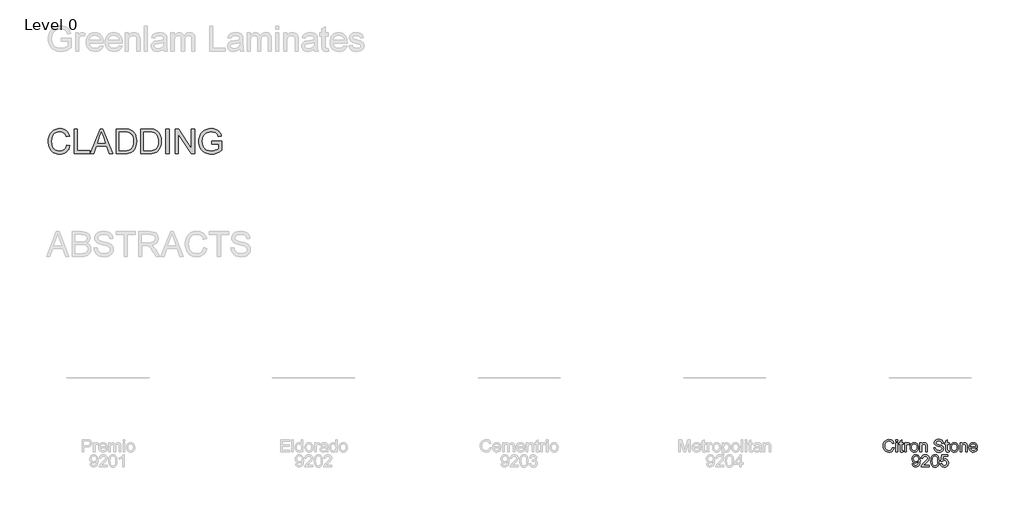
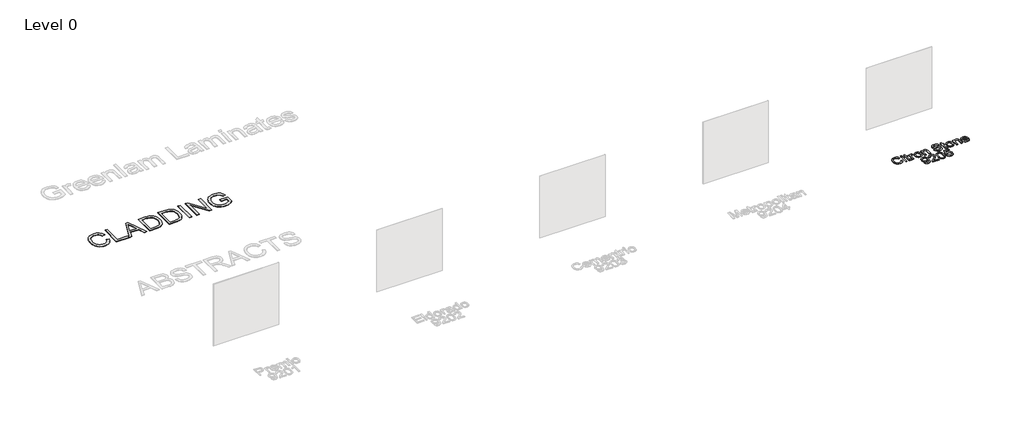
# One storey, part 7 of 8: 2 proxies.
"""IFC4 building model written with IfcOpenShell, lengths in millimetres."""

from ifc_helpers import new_model, si_unit, origin, origin_with_axes, place, context, project, spatial, polyline, outline, extrude, element, save

model = new_model("IFC4")

# Units and contexts
model_context = context("Model", 3, world=origin())
ifc_project = project(units=[si_unit("LENGTHUNIT", "METRE", prefix="MILLI")], contexts=[model_context])

# Site, building, storey
site = spatial("IfcSite", under=ifc_project)
building = spatial("IfcBuilding", under=site)
storey = spatial("IfcBuildingStorey", under=building, Name="Level 0", Elevation=0.0)

# Proxies
placement = place(None, origin())
element("IfcBuildingElementProxy", 1, Name="300mm Arial", ObjectType="300mm Arial", at=placement, inside=storey, context=model_context, shape_type="SweptSolid", body=[
    extrude(outline(polyline([(9633.4629285, -6895.733257), (9671.1340448, -6905.4453417), (9663.6798359, -6928.872527), (9653.7516205, -6949.3428607), (9641.3493988, -6966.856343), (9626.4731706, -6981.4129737), (9609.4586283, -6992.856403), (9590.6414643, -7001.0302811), (9570.0216784, -7005.9346079), (9547.5992708, -7007.5693835), (9503.9040868, -7002.6213707), (9469.2036177, -6987.7773322), (9442.6057494, -6963.5523028), (9423.2183683, -6930.4613173), (9411.3817651, -6891.5577963), (9407.4362307, -6849.8951604), (9411.8967999, -6805.9516561), (9425.2785074, -6768.0046283), (9446.8823776, -6737.2588905), (9476.0094346, -6714.9192564), (9510.5535539, -6701.3168196), (9548.4086112, -6696.782674), (9589.7125622, -6702.6503918), (9607.6812984, -6709.9850391), (9623.8612084, -6720.2535453), (9637.9855778, -6733.1845974), (9649.787692, -6748.5068825), (9666.4251553, -6786.3251516), (9628.754039, -6795.3014723), (9615.6942281, -6767.8298843), (9597.8519514, -6748.9851291), (9575.0064795, -6738.086625), (9546.9370832, -6734.4537903), (9514.5818618, -6738.4820981), (9488.0023876, -6750.5670217), (9467.8332572, -6769.439368), (9454.709067, -6793.8299443), (9447.507777, -6821.4026999), (9445.107347, -6849.821584), (9447.9492354, -6884.6232207), (9456.4749006, -6914.7159679), (9471.0062394, -6938.9501944), (9491.8651486, -6956.1762688), (9516.8719272, -6966.4677676), (9543.8468745, -6969.8982672), (9575.291588, -6965.2261659), (9601.4939831, -6951.2098619), (9621.2768374, -6927.996508), (9633.4629285, -6895.733257)])), origin_with_axes(), (0.0, 0.0, 1.0), 10.0),
    extrude(outline(polyline([(9718.2229402, -6739.1626798), (9718.2229402, -6701.4915635), (9755.8940565, -6701.4915635), (9755.8940565, -6739.1626798), (9718.2229402, -6739.1626798)])), origin_with_axes(), (0.0, 0.0, 1.0), 10.0),
    extrude(outline(polyline([(9718.2229402, -7002.860494), (9718.2229402, -6781.5426857), (9755.8940565, -6781.5426857), (9755.8940565, -7002.860494), (9718.2229402, -7002.860494)])), origin_with_axes(), (0.0, 0.0, 1.0), 10.0),
    extrude(outline(polyline([(9892.4518531, -6971.4433716), (9897.1607426, -7003.96414), (9868.9809818, -7007.5693835), (9850.8995817, -7006.005885), (9837.4167066, -7001.3153896), (9827.888563, -6994.0865084), (9821.6713572, -6984.9078526), (9818.2500547, -6969.1441091), (9817.1096205, -6942.1599648), (9817.1096205, -6819.213802), (9788.8562833, -6819.213802), (9788.8562833, -6781.5426857), (9817.1096205, -6781.5426857), (9817.1096205, -6727.758338), (9854.7807368, -6705.6118419), (9854.7807368, -6781.5426857), (9892.4518531, -6781.5426857), (9892.4518531, -6819.213802), (9854.7807368, -6819.213802), (9854.7807368, -6941.0563188), (9856.7672996, -6960.4804881), (9863.2052345, -6967.3598814), (9876.0443161, -6969.8982672), (9892.4518531, -6971.4433716)])), origin_with_axes(), (0.0, 0.0, 1.0), 10.0),
    extrude(outline(polyline([(9930.1229694, -7002.860494), (9930.1229694, -6781.5426857), (9963.0851962, -6781.5426857), (9963.0851962, -6814.2841833), (9975.2620902, -6795.3014723), (9986.4824911, -6784.1178596), (9997.7396801, -6778.654812), (10010.0269388, -6776.8337961), (10028.7889205, -6779.7400639), (10047.8452079, -6788.4588672), (10035.2636436, -6822.2304343), (10022.0198918, -6816.4362929), (10008.77614, -6814.5049125), (9997.528148, -6816.3627165), (9987.4757725, -6821.9361288), (9979.3547774, -6830.8020848), (9973.9009268, -6842.5375205), (9969.320796, -6863.5803706), (9967.7940857, -6886.5362071), (9967.7940857, -7002.860494), (9930.1229694, -7002.860494)])), origin_with_axes(), (0.0, 0.0, 1.0), 10.0),
    extrude(outline(polyline([(10061.9718765, -6892.2015898), (10064.009023, -6863.5389839), (10070.1204627, -6838.8403064), (10080.3061954, -6818.1055575), (10094.5662213, -6801.334737), (10108.9228161, -6790.6155754), (10124.7693331, -6782.9590314), (10142.1057721, -6778.3651049), (10160.9321332, -6776.8337961), (10181.7151667, -6778.698498), (10200.5070388, -6784.2926036), (10217.3077497, -6793.6161129), (10232.1172993, -6806.669026), (10244.2045221, -6823.0098843), (10252.8382526, -6842.1972296), (10258.018491, -6864.2310619), (10259.7452371, -6889.1113811), (10256.6918165, -6927.1687735), (10247.5315548, -6956.1394806), (10232.5311665, -6977.8353213), (10211.9573659, -6994.0681143), (10187.5208044, -7004.1940662), (10160.9321332, -7007.5693835), (10139.8455971, -7005.7115794), (10120.878981, -7000.1381672), (10104.0322848, -6990.8491468), (10089.3055087, -6977.8445183), (10077.3470446, -6961.3450108), (10068.8052845, -6941.5713536), (10063.6802285, -6918.5235466), (10061.9718765, -6892.2015898)]), holes=[polyline([(10099.6429928, -6892.1280134), (10104.0023944, -6926.2214773), (10117.0805994, -6950.5108861), (10136.7622861, -6965.0514219), (10160.9321332, -6969.8982672), (10184.9916157, -6965.0238308), (10204.6365142, -6950.4005215), (10217.7147191, -6925.789216), (10222.0741208, -6890.950791), (10217.687128, -6857.8506085), (10204.5261496, -6833.8922936), (10184.8536599, -6819.3517577), (10160.9321332, -6814.5049125), (10136.7622861, -6819.3333636), (10117.0805994, -6833.8187172), (10104.0023944, -6858.0529436), (10099.6429928, -6892.1280134)])]), origin_with_axes(), (0.0, 0.0, 1.0), 10.0),
    extrude(outline(polyline([(10302.1252429, -7002.860494), (10302.1252429, -6781.5426857), (10339.7963592, -6781.5426857), (10339.7963592, -6812.4447733), (10352.8837612, -6796.8649708), (10368.6015195, -6785.7365404), (10386.949634, -6779.0594822), (10407.9281047, -6776.8337961), (10426.4969485, -6778.6272209), (10443.5022937, -6784.0074951), (10457.6841446, -6792.303234), (10467.7825054, -6802.8430532), (10479.0764826, -6830.5445674), (10481.0630454, -6866.964885), (10481.0630454, -7002.860494), (10443.3919291, -7002.860494), (10443.3919291, -6872.0416565), (10439.0509215, -6838.7115477), (10433.045248, -6828.7879309), (10423.7102423, -6821.0900002), (10411.7448804, -6816.1511844), (10397.8481381, -6814.5049125), (10375.7844154, -6818.2021265), (10356.9764484, -6829.2937687), (10349.4601594, -6838.3482643), (10344.0913815, -6850.7228949), (10339.7963592, -6885.4325611), (10339.7963592, -7002.860494), (10302.1252429, -7002.860494)])), origin_with_axes(), (0.0, 0.0, 1.0), 10.0),
    extrude(outline(polyline([(10641.1652897, -6899.2649241), (10678.836406, -6899.2649241), (10683.1590194, -6920.1698185), (10690.9765118, -6936.9728286), (10703.1718, -6950.308551), (10720.6278006, -6960.8115819), (10741.9649564, -6967.6265959), (10765.8037097, -6969.8982672), (10786.7913775, -6968.1784189), (10805.1670831, -6963.0188739), (10820.0571069, -6954.8518936), (10830.587729, -6944.1097394), (10836.85092, -6931.7764955), (10838.9386503, -6918.8362463), (10837.3751518, -6906.2270909), (10832.6846564, -6895.3285868), (10823.1565127, -6886.0303694), (10807.0800695, -6878.222074), (10752.228864, -6863.837888), (10716.2224138, -6854.3189414), (10693.1838038, -6845.2598472), (10674.4310191, -6832.5863125), (10661.141282, -6817.2272392), (10653.2226221, -6799.5137211), (10650.5830688, -6779.7768521), (10653.8480215, -6757.7131294), (10663.6428796, -6737.1393289), (10679.7101257, -6719.7017223), (10701.7922425, -6707.0465817), (10728.2981402, -6699.3486509), (10757.6367294, -6696.782674), (10789.4217337, -6699.4682126), (10817.2336126, -6707.5248283), (10840.0790845, -6720.7869742), (10856.9648681, -6739.0891034), (10867.65184, -6761.2907818), (10871.9008771, -6786.2515752), (10834.2297608, -6786.2515752), (10827.3135792, -6763.7739853), (10812.892605, -6747.5503893), (10790.3598328, -6737.7279401), (10759.1082573, -6734.4537903), (10727.1209179, -6737.6911519), (10705.1767568, -6747.4032365), (10692.484828, -6761.695452), (10688.2541851, -6778.6732061), (10691.2524233, -6793.1493626), (10700.2471381, -6804.7928278), (10721.5107174, -6815.2038882), (10761.7570077, -6825.8356779), (10803.290885, -6835.9340387), (10828.4172252, -6844.7448125), (10849.8923367, -6858.4116286), (10864.874331, -6875.2790181), (10873.6759077, -6895.1630399), (10876.6097666, -6917.8797531), (10873.2344493, -6941.102304), (10863.1084974, -6962.9452975), (10846.6457781, -6981.7440675), (10824.2601587, -6995.8339479), (10797.3403937, -7004.6355246), (10767.2752376, -7007.5693835), (10730.3674765, -7004.4055984), (10699.9896207, -6994.9142429), (10675.7921825, -6979.0585289), (10657.4256739, -6956.8016682), (10645.6350559, -6929.6887651), (10641.1652897, -6899.2649241)])), origin_with_axes(), (0.0, 0.0, 1.0), 10.0),
    extrude(outline(polyline([(11008.4586737, -6971.4433716), (11013.1675632, -7003.96414), (10984.9878024, -7007.5693835), (10966.9064023, -7006.005885), (10953.4235272, -7001.3153896), (10943.8953835, -6994.0865084), (10937.6781778, -6984.9078526), (10934.2568752, -6969.1441091), (10933.1164411, -6942.1599648), (10933.1164411, -6819.213802), (10904.8631038, -6819.213802), (10904.8631038, -6781.5426857), (10933.1164411, -6781.5426857), (10933.1164411, -6727.758338), (10970.7875574, -6705.6118419), (10970.7875574, -6781.5426857), (11008.4586737, -6781.5426857), (11008.4586737, -6819.213802), (10970.7875574, -6819.213802), (10970.7875574, -6941.0563188), (10972.7741201, -6960.4804881), (10979.2120551, -6967.3598814), (10992.0511367, -6969.8982672), (11008.4586737, -6971.4433716)])), origin_with_axes(), (0.0, 0.0, 1.0), 10.0),
    extrude(outline(polyline([(11036.7120109, -6892.2015898), (11038.7491575, -6863.5389839), (11044.8605971, -6838.8403064), (11055.0463298, -6818.1055575), (11069.3063557, -6801.334737), (11083.6629505, -6790.6155754), (11099.5094675, -6782.9590314), (11116.8459065, -6778.3651049), (11135.6722676, -6776.8337961), (11156.4553011, -6778.698498), (11175.2471732, -6784.2926036), (11192.0478841, -6793.6161129), (11206.8574337, -6806.669026), (11218.9446565, -6823.0098843), (11227.5783871, -6842.1972296), (11232.7586254, -6864.2310619), (11234.4853715, -6889.1113811), (11231.431951, -6927.1687735), (11222.2716893, -6956.1394806), (11207.2713009, -6977.8353213), (11186.6975003, -6994.0681143), (11162.2609388, -7004.1940662), (11135.6722676, -7007.5693835), (11114.5857315, -7005.7115794), (11095.6191154, -7000.1381672), (11078.7724193, -6990.8491468), (11064.0456431, -6977.8445183), (11052.087179, -6961.3450108), (11043.545419, -6941.5713536), (11038.4203629, -6918.5235466), (11036.7120109, -6892.2015898)]), holes=[polyline([(11074.3831272, -6892.1280134), (11078.7425289, -6926.2214773), (11091.8207338, -6950.5108861), (11111.5024205, -6965.0514219), (11135.6722676, -6969.8982672), (11159.7317501, -6965.0238308), (11179.3766486, -6950.4005215), (11192.4548536, -6925.789216), (11196.8142552, -6890.950791), (11192.4272624, -6857.8506085), (11179.266284, -6833.8922936), (11159.5937943, -6819.3517577), (11135.6722676, -6814.5049125), (11111.5024205, -6819.3333636), (11091.8207338, -6833.8187172), (11078.7425289, -6858.0529436), (11074.3831272, -6892.1280134)])]), origin_with_axes(), (0.0, 0.0, 1.0), 10.0),
    extrude(outline(polyline([(11276.8653774, -7002.860494), (11276.8653774, -6781.5426857), (11314.5364937, -6781.5426857), (11314.5364937, -6812.4447733), (11327.6238956, -6796.8649708), (11343.3416539, -6785.7365404), (11361.6897684, -6779.0594822), (11382.6682392, -6776.8337961), (11401.2370829, -6778.6272209), (11418.2424281, -6784.0074951), (11432.424279, -6792.303234), (11442.5226398, -6802.8430532), (11453.816617, -6830.5445674), (11455.8031798, -6866.964885), (11455.8031798, -7002.860494), (11418.1320635, -7002.860494), (11418.1320635, -6872.0416565), (11413.791056, -6838.7115477), (11407.7853824, -6828.7879309), (11398.4503768, -6821.0900002), (11386.4850149, -6816.1511844), (11372.5882725, -6814.5049125), (11350.5245498, -6818.2021265), (11331.7165828, -6829.2937687), (11324.2002938, -6838.3482643), (11318.831516, -6850.7228949), (11314.5364937, -6885.4325611), (11314.5364937, -7002.860494), (11276.8653774, -7002.860494)])), origin_with_axes(), (0.0, 0.0, 1.0), 10.0),
    extrude(outline(polyline([(11662.5528611, -6936.9360404), (11699.4882134, -6941.64493), (11686.1800822, -6969.4752029), (11664.9440941, -6990.2789297), (11636.2584955, -7003.2467701), (11600.6015331, -7007.5693835), (11577.2272308, -7005.7046817), (11556.4005114, -7000.1105761), (11538.1213748, -6990.7870668), (11522.3898209, -6977.7341537), (11509.7392788, -6961.3151204), (11500.7031773, -6941.8932503), (11495.2815164, -6919.4685435), (11493.4742961, -6894.0409998), (11495.2999105, -6867.7512327), (11500.7767537, -6844.5792656), (11509.9048257, -6824.5250983), (11522.6841265, -6807.5887309), (11538.3742936, -6794.133447), (11556.2349645, -6784.5225298), (11576.2661391, -6778.7559796), (11598.4678175, -6776.8337961), (11619.9544253, -6778.751381), (11639.3854925, -6784.5041357), (11656.7610189, -6794.0920602), (11672.0810048, -6807.5151545), (11684.5866933, -6824.4147337), (11693.519328, -6844.4321128), (11698.8789089, -6867.5672917), (11700.6654358, -6893.8202706), (11700.4447066, -6903.9738137), (11531.1454124, -6903.9738137), (11537.6661208, -6932.1719686), (11552.8136619, -6952.902119), (11574.6750495, -6965.6492302), (11601.3372971, -6969.8982672), (11621.3868658, -6967.9300985), (11638.2726494, -6962.0255925), (11651.9946478, -6951.8168672), (11662.5528611, -6936.9360404)]), holes=[polyline([(11531.1454124, -6866.3026974), (11662.9943195, -6866.3026974), (11657.8991539, -6846.4002814), (11647.9111577, -6832.1632482), (11625.9486026, -6818.9194964), (11598.3206647, -6814.5049125), (11572.92761, -6818.0273826), (11551.9307451, -6828.5947929), (11537.335027, -6845.0667092), (11531.1454124, -6866.3026974)])]), origin_with_axes(), (0.0, 0.0, 1.0), 10.0),
    extrude(outline(polyline([(10111.4152166, -7293.4427149), (10149.0863329, -7288.7338254), (10155.5242679, -7310.1169663), (10166.0089047, -7324.6758963), (10180.2827261, -7333.0360146), (10198.0882147, -7335.8227207), (10214.0634903, -7334.029296), (10228.5856321, -7328.6490218), (10240.6521615, -7320.2705094), (10249.2606002, -7309.4823699), (10261.5846471, -7276.7408723), (10267.0293006, -7233.0364913), (10266.8085714, -7225.6788514), (10253.7579576, -7241.6081418), (10236.679036, -7254.2264942), (10216.8042112, -7262.4486568), (10195.3658879, -7265.1893777), (10177.4707281, -7263.5155146), (10161.0149066, -7258.4939254), (10145.9984234, -7250.12461), (10132.4212786, -7238.4075684), (10121.1709873, -7223.9544045), (10113.135065, -7207.3767221), (10108.3135116, -7188.6745212), (10106.7063271, -7167.8478018), (10108.3916865, -7146.326705), (10113.4477647, -7127.0129003), (10121.8745616, -7109.9063875), (10133.6720773, -7095.0071667), (10148.0079788, -7082.9360387), (10164.0499331, -7074.3138045), (10181.7979401, -7069.1404639), (10201.2519999, -7067.4160171), (10229.3489872, -7071.3523544), (10254.925983, -7083.1613665), (10276.318321, -7102.254442), (10291.8613353, -7128.0429699), (10301.3250996, -7163.6907352), (10304.4796877, -7212.3615232), (10301.3342966, -7263.96617), (10291.8981235, -7303.8537754), (10276.2539416, -7333.8269609), (10254.4845246, -7355.6883485), (10227.5279714, -7369.0424649), (10196.3223811, -7373.4938371), (10164.1143124, -7368.2423216), (10138.4177551, -7352.4877751), (10120.4467196, -7327.2234791), (10111.4152166, -7293.4427149)]), holes=[polyline([(10266.8085714, -7166.964885), (10262.7434754, -7141.4338745), (10250.5481872, -7121.788976), (10231.6206586, -7109.262594), (10207.358841, -7105.0871334), (10182.1957125, -7109.5844908), (10162.0357792, -7123.0765629), (10148.7920273, -7143.7239399), (10144.3774434, -7169.6872117), (10148.552904, -7192.964945), (10161.079286, -7211.4418182), (10180.7425786, -7223.4991506), (10206.3287714, -7227.5182614), (10230.3974509, -7223.4991506), (10249.775635, -7211.4418182), (10262.5503373, -7192.2843633), (10266.8085714, -7166.964885)])]), origin_with_axes(), (0.0, 0.0, 1.0), 10.0),
    extrude(outline(polyline([(10530.5063855, -7331.1138312), (10530.5063855, -7368.7849475), (10332.7330249, -7368.7849475), (10336.7797269, -7342.8124787), (10346.0687473, -7322.5145896), (10359.661987, -7302.8237058), (10379.3252796, -7282.213117), (10406.8244588, -7259.156113), (10447.4754192, -7223.0484951), (10471.8659955, -7196.3954446), (10484.0612836, -7174.7639833), (10488.1263797, -7153.7211331), (10484.2912099, -7134.8579838), (10472.7857005, -7119.1770138), (10455.0997736, -7108.6096035), (10432.7233512, -7105.0871334), (10409.2248888, -7108.52683), (10390.9687448, -7118.84592), (10379.1873239, -7135.2350629), (10375.1130308, -7156.8849183), (10337.4419145, -7152.1760288), (10346.574585, -7115.7373171), (10355.1209436, -7101.2013798), (10366.3206511, -7089.1210548), (10379.9161901, -7079.6251008), (10395.6500432, -7072.8422765), (10433.5326916, -7067.4160171), (10453.7225154, -7068.9243332), (10471.6912516, -7073.4492818), (10487.4389002, -7080.9908627), (10500.9654613, -7091.549076), (10511.8294765, -7104.3421723), (10519.5894873, -7118.5884026), (10524.2454938, -7134.2877667), (10525.797496, -7151.4402648), (10524.1236329, -7169.4572855), (10519.1020437, -7187.1616065), (10510.1901024, -7205.1694302), (10496.845183, -7224.0969588), (10475.5724066, -7246.6941104), (10442.8768943, -7275.7108027), (10399.5403953, -7311.9471793), (10382.5442471, -7331.1138312), (10530.5063855, -7331.1138312)])), origin_with_axes(), (0.0, 0.0, 1.0), 10.0),
    extrude(outline(polyline([(10568.1775018, -7220.5285035), (10570.9458139, -7172.2899768), (10579.2507499, -7133.8187172), (10593.0095365, -7104.5261133), (10612.1394003, -7083.8235541), (10636.7782969, -7071.5179013), (10667.0641821, -7067.4160171), (10690.277536, -7069.8440382), (10711.0628688, -7077.1281017), (10728.445293, -7088.983099), (10741.4499216, -7105.1239216), (10751.2723708, -7125.4126136), (10759.1082573, -7149.7112194), (10764.2402112, -7180.5673217), (10765.9508625, -7220.5285035), (10763.2101416, -7268.4911186), (10754.987979, -7306.8704077), (10741.3119658, -7336.1906027), (10722.2096932, -7356.9759355), (10697.5156143, -7369.3643617), (10667.0641821, -7373.4938371), (10646.3156376, -7371.7004123), (10627.9215379, -7366.3201381), (10611.8818829, -7357.3530145), (10598.1966727, -7344.7990414), (10585.0632854, -7322.1053209), (10575.6822945, -7293.828991), (10570.0537, -7259.9700519), (10568.1775018, -7220.5285035)]), holes=[polyline([(10605.8486182, -7220.4549271), (10610.2632021, -7279.7115194), (10615.781432, -7299.9795181), (10623.5069539, -7314.0073184), (10643.2254289, -7330.3688702), (10667.0641821, -7335.8227207), (10690.9029354, -7330.3504761), (10710.6214104, -7313.933742), (10718.3469323, -7299.8829491), (10723.8651622, -7279.6195489), (10728.2797461, -7220.4549271), (10724.012315, -7162.5319069), (10718.6780261, -7142.3305869), (10711.2100216, -7127.9693935), (10691.5283348, -7110.8076984), (10666.6227238, -7105.0871334), (10643.0414879, -7110.1271167), (10624.0955651, -7125.2470667), (10616.1125258, -7140.8820515), (10610.4103549, -7161.9616898), (10605.8486182, -7220.4549271)])]), origin_with_axes(), (0.0, 0.0, 1.0), 10.0),
    extrude(outline(polyline([(10798.9130892, -7288.7338254), (10836.5842055, -7284.0249358), (10843.500387, -7306.6404815), (10855.5669165, -7322.8364863), (10872.7286116, -7332.5761621), (10894.93029, -7335.8227207), (10921.9328284, -7331.3069693), (10942.1663381, -7317.7597148), (10954.8030847, -7296.7444558), (10959.0153335, -7269.8246908), (10955.0697991, -7244.4776213), (10943.2331959, -7225.0902402), (10923.4135534, -7212.7845875), (10895.5189012, -7208.6827032), (10877.244363, -7210.3197781), (10862.4463098, -7215.2310027), (10841.2930951, -7232.2271509), (10803.6219788, -7227.5182614), (10836.5842055, -7072.1249066), (10982.5597812, -7072.1249066), (10982.5597812, -7109.7960229), (10867.0448347, -7109.7960229), (10850.9316033, -7192.790201), (10877.8421713, -7176.4562404), (10906.0403262, -7171.0115869), (10924.3861415, -7172.6992456), (10941.2374361, -7177.7622215), (10956.5942101, -7186.2005148), (10970.4564636, -7198.0141254), (10981.9320826, -7212.4810848), (10990.1289533, -7228.8794248), (10995.0470757, -7247.2091452), (10996.6864498, -7267.470246), (10990.7819438, -7305.1413624), (10983.4013113, -7321.9351754), (10973.0684257, -7337.3678251), (10957.4150468, -7353.1729553), (10939.1497058, -7364.4623341), (10918.2724026, -7371.2359613), (10894.7831372, -7373.4938371), (10857.7834055, -7367.6904986), (10842.1047347, -7360.4363255), (10828.3068606, -7350.2804832), (10816.8266431, -7337.7288093), (10808.1009421, -7323.2871418), (10798.9130892, -7288.7338254)])), origin_with_axes(), (0.0, 0.0, 1.0), 10.0),
])
element("IfcBuildingElementProxy", 2, Name="600mm Arial", ObjectType="600mm Arial", at=placement, inside=storey, context=model_context, shape_type="SweptSolid", body=[
    extrude(outline(polyline([(-10453.6631268, 474.3824267), (-10378.3208942, 454.9582573), (-10393.229312, 408.1038867), (-10413.0857427, 367.1632192), (-10437.8901863, 332.1362547), (-10467.6426426, 303.0229933), (-10501.6717272, 280.1361347), (-10539.3060553, 263.7883785), (-10580.5456269, 253.9797248), (-10625.3904421, 250.7101736), (-10671.3343048, 253.18418), (-10712.7808101, 260.6061993), (-10749.729958, 272.9762314), (-10782.1817485, 290.2942763), (-10810.5822385, 312.3028166), (-10835.377485, 338.744335), (-10856.5674879, 369.6188315), (-10874.1522473, 404.926306), (-10887.9616177, 443.1400482), (-10897.8254537, 482.733348), (-10903.7437553, 523.7062052), (-10905.7165225, 566.0586199), (-10903.4862379, 611.5012433), (-10896.7953841, 653.9456285), (-10885.6439611, 693.3917754), (-10870.0319689, 729.8396841), (-10850.3088955, 762.6869478), (-10826.8242286, 791.3311596), (-10799.5779683, 815.7723197), (-10768.5701147, 836.0104279), (-10734.8537298, 851.8799375), (-10699.481876, 863.2153015), (-10662.4545532, 870.0165199), (-10623.7717614, 872.2835926), (-10580.6789842, 869.3497337), (-10541.1638594, 860.548157), (-10505.2263869, 845.8788624), (-10472.8665669, 825.3418501), (-10444.6178282, 799.4797458), (-10421.0135997, 768.8351756), (-10402.0538814, 733.4081395), (-10387.7386733, 693.1986374), (-10463.0809059, 675.245996), (-10474.9451002, 704.8742922), (-10489.2005275, 730.189172), (-10505.8471878, 751.1906354), (-10524.8850811, 767.8786824), (-10546.4245719, 780.5936039), (-10570.5760249, 789.6756906), (-10597.33944, 795.1249427), (-10626.7148173, 796.94136), (-10660.5139756, 794.9272061), (-10691.4252603, 788.8847443), (-10719.4486713, 778.8139747), (-10744.5842086, 764.7148973), (-10766.514574, 747.2221084), (-10784.9224694, 726.9702046), (-10799.8078946, 703.9591858), (-10811.1708497, 678.189052), (-10825.5734298, 623.0435409), (-10830.3742899, 566.2057727), (-10824.690513, 496.6024992), (-10817.585792, 465.3325296), (-10807.6391826, 436.4170048), (-10794.6897363, 410.4307403), (-10778.5765049, 387.9485519), (-10759.2994884, 368.9704395), (-10736.8586867, 353.496403), (-10712.3439502, 341.4896544), (-10686.8451294, 332.9134054), (-10660.3622243, 327.767656), (-10632.8952348, 326.0524062), (-10600.1399417, 328.3884569), (-10570.0058078, 335.3966089), (-10542.4928331, 347.0768622), (-10517.6010176, 363.4292169), (-10495.9189725, 384.3800965), (-10478.035309, 409.8559247), (-10463.9500271, 439.8567014), (-10453.6631268, 474.3824267)])), origin_with_axes(), (0.0, 0.0, 1.0), 10.0),
    extrude(outline(polyline([(-10274.7253243, 260.1279527), (-10274.7253243, 862.8658136), (-10199.3830917, 862.8658136), (-10199.3830917, 335.4701853), (-9898.0141613, 335.4701853), (-9898.0141613, 260.1279527), (-10274.7253243, 260.1279527)])), origin_with_axes(), (0.0, 0.0, 1.0), 10.0),
    extrude(outline(polyline([(-9883.4460343, 260.1279527), (-9642.8512094, 862.8658136), (-9578.6925895, 862.8658136), (-9338.0977646, 260.1279527), (-9417.7074284, 260.1279527), (-9486.7220907, 448.4835342), (-9734.968861, 448.4835342), (-9803.8363705, 260.1279527), (-9883.4460343, 260.1279527)]), holes=[polyline([(-9707.304135, 523.8257668), (-9514.2396639, 523.8257668), (-9568.5390464, 672.0086345), (-9610.7718994, 787.523581), (-9648.295863, 684.9580807), (-9707.304135, 523.8257668)])]), origin_with_axes(), (0.0, 0.0, 1.0), 10.0),
    extrude(outline(polyline([(-9257.6051841, 260.1279527), (-9257.6051841, 862.8658136), (-9049.6782804, 862.8658136), (-8987.5430114, 860.6953098), (-8942.109585, 854.1837985), (-8894.0641964, 837.4451677), (-8853.5236006, 811.0680286), (-8831.1839664, 789.5101437), (-8811.8425705, 765.1563556), (-8795.4994129, 738.0066644), (-8782.1544935, 708.06107), (-8771.7894183, 675.5954839), (-8764.3857931, 640.8858177), (-8758.462893, 564.7342447), (-8762.4728068, 500.0421958), (-8774.502548, 443.1124571), (-8792.8230714, 394.6440042), (-8815.7053315, 355.335813), (-8842.0456823, 324.3049667), (-8870.740478, 300.6685485), (-8903.6843106, 283.1389715), (-8942.7717726, 270.4286485), (-8988.0764403, 262.7031266), (-9039.6718901, 260.1279527), (-9257.6051841, 260.1279527)]), holes=[polyline([(-9182.2629515, 335.4701853), (-9048.9425164, 335.4701853), (-8993.7970053, 338.192512), (-8951.9688225, 346.3594923), (-8920.4045473, 359.4928796), (-8896.0507592, 377.1144271), (-8869.8759553, 409.727166), (-8850.2126626, 451.941625), (-8837.9070099, 503.941745), (-8833.8051256, 565.9114671), (-8835.814681, 609.6526363), (-8841.8433472, 648.0227284), (-8851.8911242, 681.0217434), (-8865.958012, 708.6496812), (-8882.9035764, 731.5319413), (-8901.5873832, 750.293923), (-8922.0094325, 764.9356265), (-8944.1697242, 775.4570515), (-8987.5062232, 784.5069486), (-9051.0026556, 787.523581), (-9182.2629515, 787.523581), (-9182.2629515, 335.4701853)])]), origin_with_axes(), (0.0, 0.0, 1.0), 10.0),
    extrude(outline(polyline([(-8654.8673232, 260.1279527), (-8654.8673232, 862.8658136), (-8446.9404195, 862.8658136), (-8384.8051505, 860.6953098), (-8339.3717241, 854.1837985), (-8291.3263355, 837.4451677), (-8250.7857397, 811.0680286), (-8228.4461055, 789.5101437), (-8209.1047096, 765.1563556), (-8192.761552, 738.0066644), (-8179.4166326, 708.06107), (-8169.0515574, 675.5954839), (-8161.6479322, 640.8858177), (-8155.7250321, 564.7342447), (-8159.7349459, 500.0421958), (-8171.7646871, 443.1124571), (-8190.0852105, 394.6440042), (-8212.9674706, 355.335813), (-8239.3078214, 324.3049667), (-8268.0026171, 300.6685485), (-8300.9464497, 283.1389715), (-8340.0339117, 270.4286485), (-8385.3385794, 262.7031266), (-8436.9340292, 260.1279527), (-8654.8673232, 260.1279527)]), holes=[polyline([(-8579.5250906, 335.4701853), (-8446.2046555, 335.4701853), (-8391.0591444, 338.192512), (-8349.2309616, 346.3594923), (-8317.6666864, 359.4928796), (-8293.3128983, 377.1144271), (-8267.1380944, 409.727166), (-8247.4748017, 451.941625), (-8235.169149, 503.941745), (-8231.0672647, 565.9114671), (-8233.0768201, 609.6526363), (-8239.1054863, 648.0227284), (-8249.1532633, 681.0217434), (-8263.2201511, 708.6496812), (-8280.1657155, 731.5319413), (-8298.8495223, 750.293923), (-8319.2715716, 764.9356265), (-8341.4318633, 775.4570515), (-8384.7683623, 784.5069486), (-8448.2647947, 787.523581), (-8579.5250906, 787.523581), (-8579.5250906, 335.4701853)])]), origin_with_axes(), (0.0, 0.0, 1.0), 10.0),
    extrude(outline(polyline([(-8042.7116832, 260.1279527), (-8042.7116832, 862.8658136), (-7967.3694506, 862.8658136), (-7967.3694506, 260.1279527), (-8042.7116832, 260.1279527)])), origin_with_axes(), (0.0, 0.0, 1.0), 10.0),
    extrude(outline(polyline([(-7816.6849854, 260.1279527), (-7816.6849854, 862.8658136), (-7736.045252, 862.8658136), (-7421.1382642, 385.3549838), (-7421.1382642, 862.8658136), (-7345.7960315, 862.8658136), (-7345.7960315, 260.1279527), (-7426.4357649, 260.1279527), (-7741.3427528, 737.7859352), (-7741.3427528, 260.1279527), (-7816.6849854, 260.1279527)])), origin_with_axes(), (0.0, 0.0, 1.0), 10.0),
    extrude(outline(polyline([(-6931.4137522, 495.5724296), (-6931.4137522, 570.9146622), (-6686.5514962, 570.9146622), (-6686.5514962, 345.6237284), (-6746.0564089, 304.2370039), (-6807.4375198, 274.5489269), (-6870.5476761, 256.6698619), (-6935.2397249, 250.7101736), (-6978.5164431, 253.0784139), (-7019.7606133, 260.183135), (-7058.9722355, 272.0243367), (-7096.1513096, 288.6020191), (-7130.0976207, 309.6678618), (-7159.6109538, 334.9735446), (-7184.6913088, 364.5190673), (-7205.3386858, 398.3044301), (-7221.4657127, 435.2489794), (-7232.9850177, 474.2720621), (-7239.8966007, 515.373678), (-7242.2004617, 558.5538272), (-7239.9057978, 601.7385749), (-7233.0218059, 643.4425975), (-7221.5484862, 683.6658952), (-7205.4858386, 722.4084678), (-7185.1189716, 757.9688612), (-7160.7329939, 788.645621), (-7132.3279053, 814.4387474), (-7099.903706, 835.3482403), (-7064.1639701, 851.507457), (-7025.8122721, 863.0497546), (-6984.848612, 869.9751331), (-6941.2729896, 872.2835926), (-6879.2112971, 866.9309096), (-6823.4035984, 850.8728605), (-6798.4841917, 839.1190308), (-6776.4066735, 825.2682737), (-6757.1710437, 809.3205892), (-6740.7773023, 791.2759773), (-6714.4185573, 747.2588966), (-6695.2335113, 691.5799566), (-6764.689632, 672.0086345), (-6780.1958581, 711.7214959), (-6799.0498103, 741.6854844), (-6823.9922096, 764.2734389), (-6857.7637767, 781.8581982), (-6898.0284611, 793.1705696), (-6942.450212, 796.94136), (-6994.4503321, 792.876264), (-7038.9088712, 780.6809758), (-7075.6602825, 761.8822059), (-7104.5390191, 738.0066644), (-7126.7039093, 710.2867561), (-7143.3137814, 679.9548856), (-7160.9721172, 623.0803291), (-7166.8582291, 561.6440359), (-7165.087797, 524.0235034), (-7159.7765007, 489.5943472), (-7150.9243402, 458.3565672), (-7138.5313155, 430.3101636), (-7122.7583749, 405.5609024), (-7103.7664669, 384.2145496), (-7081.5555915, 366.2711053), (-7056.1257485, 351.7305695), (-7028.6679561, 340.496373), (-7000.3732322, 332.471947), (-6971.2415767, 327.6572914), (-6941.2729896, 326.0524062), (-6889.0889286, 330.8900544), (-6838.1924546, 345.4029992), (-6793.9914329, 365.3973856), (-6761.8937288, 386.679359), (-6761.8937288, 495.5724296), (-6931.4137522, 495.5724296)])), origin_with_axes(), (0.0, 0.0, 1.0), 10.0),
])

save(model, "model.ifc")
